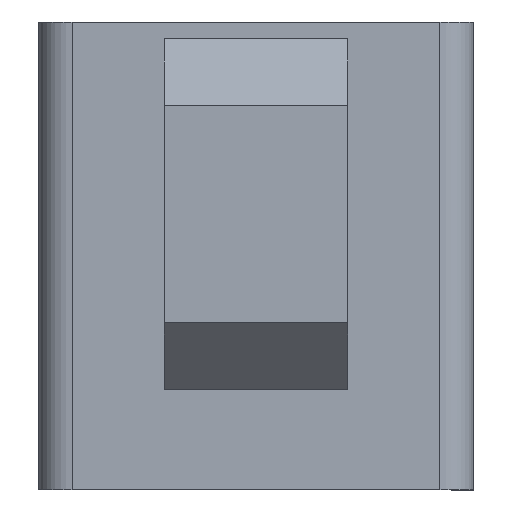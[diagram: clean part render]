
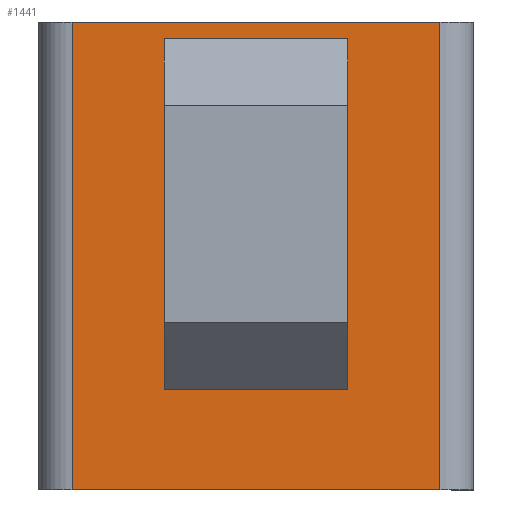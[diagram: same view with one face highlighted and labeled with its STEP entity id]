
A CAD part, front view. The second image highlights one B-rep face of the part: STEP entity #1441.
In plain terms, the highlighted planar face has unit normal (0, -1, 0).
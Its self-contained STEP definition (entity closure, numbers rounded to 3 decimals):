
#44 = ORIENTED_EDGE ( 'NONE', *, *, #53, .T. ) ;
#53 = EDGE_CURVE ( 'NONE', #296, #157, #1183, .T. ) ;
#74 = CARTESIAN_POINT ( 'NONE',  ( 6.5, -8., 7. ) ) ;
#76 = ORIENTED_EDGE ( 'NONE', *, *, #981, .T. ) ;
#86 = ORIENTED_EDGE ( 'NONE', *, *, #205, .T. ) ;
#87 = EDGE_CURVE ( 'NONE', #1394, #995, #908, .T. ) ;
#101 = FACE_BOUND ( 'NONE', #797, .T. ) ;
#132 = VERTEX_POINT ( 'NONE', #1248 ) ;
#157 = VERTEX_POINT ( 'NONE', #555 ) ;
#205 = EDGE_CURVE ( 'NONE', #1809, #655, #888, .T. ) ;
#212 = DIRECTION ( 'NONE',  ( -1., 0., 0. ) ) ;
#275 = CARTESIAN_POINT ( 'NONE',  ( -6.5, -8., 4.5 ) ) ;
#296 = VERTEX_POINT ( 'NONE', #1920 ) ;
#298 = LINE ( 'NONE', #1279, #1364 ) ;
#370 = CARTESIAN_POINT ( 'NONE',  ( -5.5, -8., 7. ) ) ;
#389 = AXIS2_PLACEMENT_3D ( 'NONE', #1127, #777, #1927 ) ;
#412 = VECTOR ( 'NONE', #1762, 1000. ) ;
#448 = DIRECTION ( 'NONE',  ( 1., 0., 0. ) ) ;
#500 = CARTESIAN_POINT ( 'NONE',  ( 6.5, -8., -7. ) ) ;
#511 = ORIENTED_EDGE ( 'NONE', *, *, #1013, .T. ) ;
#543 = CARTESIAN_POINT ( 'NONE',  ( 1.75, -8., -2. ) ) ;
#555 = CARTESIAN_POINT ( 'NONE',  ( 5.5, -8., -7. ) ) ;
#566 = VECTOR ( 'NONE', #1691, 1000. ) ;
#622 = ORIENTED_EDGE ( 'NONE', *, *, #87, .T. ) ;
#643 = EDGE_CURVE ( 'NONE', #157, #1219, #1840, .T. ) ;
#647 = AXIS2_PLACEMENT_3D ( 'NONE', #74, #1336, #212 ) ;
#655 = VERTEX_POINT ( 'NONE', #543 ) ;
#704 = DIRECTION ( 'NONE',  ( 0., 0., 1. ) ) ;
#716 = LINE ( 'NONE', #822, #1820 ) ;
#744 = CARTESIAN_POINT ( 'NONE',  ( -5.5, -8., 7. ) ) ;
#746 = EDGE_CURVE ( 'NONE', #1411, #1219, #716, .T. ) ;
#777 = DIRECTION ( 'NONE',  ( 0., 1., 0. ) ) ;
#797 = EDGE_LOOP ( 'NONE', ( #1113, #622, #511, #986, #86, #1217 ) ) ;
#822 = CARTESIAN_POINT ( 'NONE',  ( 6.5, -8., 7. ) ) ;
#868 = EDGE_LOOP ( 'NONE', ( #1291, #76, #44, #1187 ) ) ;
#880 = LINE ( 'NONE', #744, #1837 ) ;
#888 = CIRCLE ( 'NONE', #921, 1. ) ;
#897 = CARTESIAN_POINT ( 'NONE',  ( -2.75, -8., -4. ) ) ;
#908 = CIRCLE ( 'NONE', #389, 1. ) ;
#921 = AXIS2_PLACEMENT_3D ( 'NONE', #1624, #1317, #996 ) ;
#945 = VECTOR ( 'NONE', #1162, 1000. ) ;
#967 = EDGE_CURVE ( 'NONE', #1394, #1539, #1445, .T. ) ;
#981 = EDGE_CURVE ( 'NONE', #1411, #296, #880, .T. ) ;
#986 = ORIENTED_EDGE ( 'NONE', *, *, #1827, .F. ) ;
#990 = DIRECTION ( 'NONE',  ( 1., 0., 0. ) ) ;
#995 = VERTEX_POINT ( 'NONE', #1233 ) ;
#996 = DIRECTION ( 'NONE',  ( -1., 0., 0. ) ) ;
#1005 = LINE ( 'NONE', #275, #1396 ) ;
#1008 = VECTOR ( 'NONE', #704, 1000. ) ;
#1013 = EDGE_CURVE ( 'NONE', #995, #132, #1005, .T. ) ;
#1021 = PLANE ( 'NONE',  #647 ) ;
#1082 = DIRECTION ( 'NONE',  ( 0., 0., -1. ) ) ;
#1113 = ORIENTED_EDGE ( 'NONE', *, *, #967, .F. ) ;
#1127 = CARTESIAN_POINT ( 'NONE',  ( -1.75, -8., 3.5 ) ) ;
#1162 = DIRECTION ( 'NONE',  ( 1., 0., 0. ) ) ;
#1182 = CARTESIAN_POINT ( 'NONE',  ( -6.5, -8., -2. ) ) ;
#1183 = LINE ( 'NONE', #500, #412 ) ;
#1187 = ORIENTED_EDGE ( 'NONE', *, *, #643, .T. ) ;
#1217 = ORIENTED_EDGE ( 'NONE', *, *, #1378, .F. ) ;
#1219 = VERTEX_POINT ( 'NONE', #1604 ) ;
#1233 = CARTESIAN_POINT ( 'NONE',  ( -1.75, -8., 4.5 ) ) ;
#1248 = CARTESIAN_POINT ( 'NONE',  ( 2.75, -8., 4.5 ) ) ;
#1279 = CARTESIAN_POINT ( 'NONE',  ( 2.75, -8., -4. ) ) ;
#1291 = ORIENTED_EDGE ( 'NONE', *, *, #746, .F. ) ;
#1317 = DIRECTION ( 'NONE',  ( 0., 1., 0. ) ) ;
#1336 = DIRECTION ( 'NONE',  ( 0., 1., 0. ) ) ;
#1364 = VECTOR ( 'NONE', #1586, 1000. ) ;
#1378 = EDGE_CURVE ( 'NONE', #1539, #655, #1566, .T. ) ;
#1394 = VERTEX_POINT ( 'NONE', #1657 ) ;
#1396 = VECTOR ( 'NONE', #448, 1000. ) ;
#1411 = VERTEX_POINT ( 'NONE', #370 ) ;
#1441 = ADVANCED_FACE ( 'NONE', ( #1836, #101 ), #1021, .F. ) ;
#1445 = LINE ( 'NONE', #897, #566 ) ;
#1539 = VERTEX_POINT ( 'NONE', #1821 ) ;
#1566 = LINE ( 'NONE', #1182, #945 ) ;
#1586 = DIRECTION ( 'NONE',  ( 0., 0., 1. ) ) ;
#1604 = CARTESIAN_POINT ( 'NONE',  ( 5.5, -8., 7. ) ) ;
#1624 = CARTESIAN_POINT ( 'NONE',  ( 1.75, -8., -1. ) ) ;
#1657 = CARTESIAN_POINT ( 'NONE',  ( -2.75, -8., 3.5 ) ) ;
#1691 = DIRECTION ( 'NONE',  ( 0., 0., -1. ) ) ;
#1747 = CARTESIAN_POINT ( 'NONE',  ( 2.75, -8., -1. ) ) ;
#1762 = DIRECTION ( 'NONE',  ( 1., 0., 0. ) ) ;
#1809 = VERTEX_POINT ( 'NONE', #1747 ) ;
#1820 = VECTOR ( 'NONE', #990, 1000. ) ;
#1821 = CARTESIAN_POINT ( 'NONE',  ( -2.75, -8., -2. ) ) ;
#1827 = EDGE_CURVE ( 'NONE', #1809, #132, #298, .T. ) ;
#1836 = FACE_OUTER_BOUND ( 'NONE', #868, .T. ) ;
#1837 = VECTOR ( 'NONE', #1082, 1000. ) ;
#1840 = LINE ( 'NONE', #1962, #1008 ) ;
#1920 = CARTESIAN_POINT ( 'NONE',  ( -5.5, -8., -7. ) ) ;
#1927 = DIRECTION ( 'NONE',  ( -1., 0., 0. ) ) ;
#1962 = CARTESIAN_POINT ( 'NONE',  ( 5.5, -8., 7. ) ) ;
